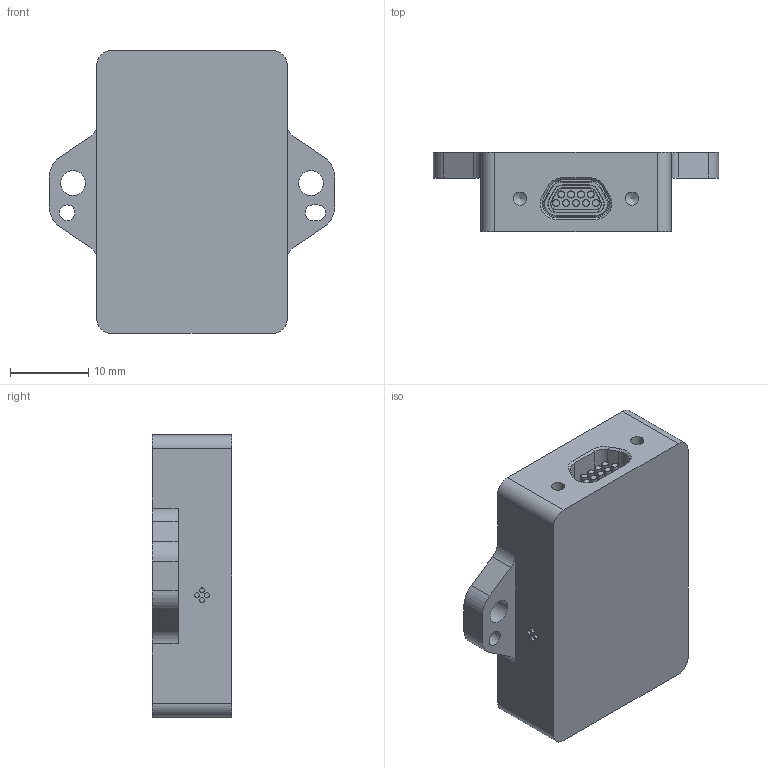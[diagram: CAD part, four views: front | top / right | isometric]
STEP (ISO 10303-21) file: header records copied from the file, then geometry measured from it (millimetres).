
FILE_DESCRIPTION(/* description */ (''),/* implementation_level */ '2;1');
FILE_NAME(/* name */ 'Y:\SilasSmith\GX7\WorkingModel\Assembly\GV7_ASY_SingleBody.stp',/* time_stamp */ '2023-06-12T14:47:19-04:00',/* author */ ('576798'),/* organization */ (''),/* preprocessor_version */ 'ST-DEVELOPER v17.2',/* originating_system */ 'Autodesk Inventor 2019',/* authorisation */ '');
FILE_SCHEMA (('AUTOMOTIVE_DESIGN { 1 0 10303 214 3 1 1 }'));
Length unit declared in the file: inch
Products named in the file (1): GV7_ASY_Shrinkwrap_1
Bounding box: 36.58 x 10.16 x 36.2 mm (x, y, z)
Volume: 8634.1 mm3; surface area: 4515.1 mm2
Topology: 1 solids, 4 shells, 441 faces, 1196 edges, 780 vertices
Faces by surface type: cylinder 253, plane 101, cone 67, torus 12, bspline 8
Full cylindrical faces by diameter (mm): 0.635 x4, 0.843 x5, 0.846 x4, 1.145 x56, 1.219 x52, 1.6 x8, 1.702 x2, 1.803 x4, 2 x1, 2.019 x1, 3.175 x2
Entity records: 28074 total; most frequent: CARTESIAN_POINT 16811, ORIENTED_EDGE 2377, DIRECTION 2070, EDGE_CURVE 1190, AXIS2_PLACEMENT_3D 803, VERTEX_POINT 780, EDGE_LOOP 487, LINE 464
